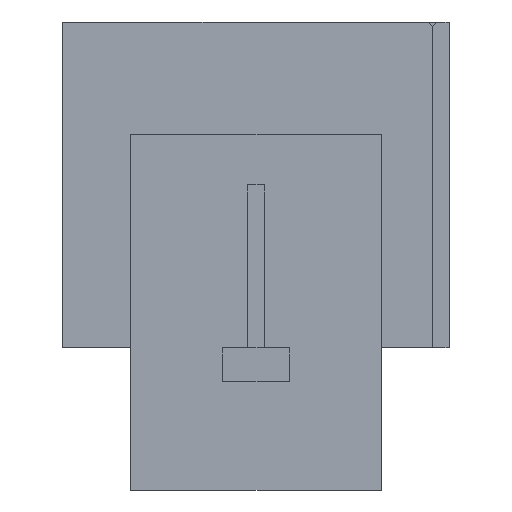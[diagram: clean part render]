
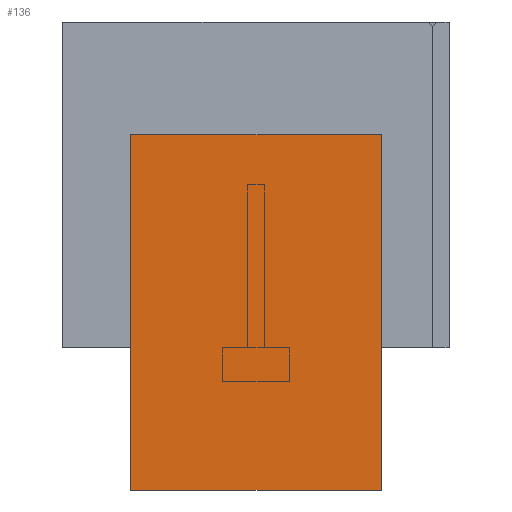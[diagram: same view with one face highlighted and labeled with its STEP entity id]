
A CAD part, left-side view. The second image highlights one B-rep face of the part: STEP entity #136.
In plain terms, the highlighted planar face has unit normal (-1, 0, 0).
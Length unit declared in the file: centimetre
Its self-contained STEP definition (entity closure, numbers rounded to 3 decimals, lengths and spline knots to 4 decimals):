
#136=ADVANCED_FACE('',(#218),#1224,.T.);
#218=FACE_OUTER_BOUND('',#300,.T.);
#300=EDGE_LOOP('',(#417,#418,#419,#420));
#417=ORIENTED_EDGE('',*,*,#754,.T.);
#418=ORIENTED_EDGE('',*,*,#747,.F.);
#419=ORIENTED_EDGE('',*,*,#756,.F.);
#420=ORIENTED_EDGE('',*,*,#750,.T.);
#747=EDGE_CURVE('',#1103,#1104,#927,.T.);
#750=EDGE_CURVE('',#1107,#1105,#930,.T.);
#754=EDGE_CURVE('',#1105,#1104,#934,.T.);
#756=EDGE_CURVE('',#1107,#1103,#936,.T.);
#927=B_SPLINE_CURVE_WITH_KNOTS('',1,(#1541,#1542),.UNSPECIFIED.,.F.,.F.,
(2,2),(-42.5,0.),.UNSPECIFIED.);
#930=B_SPLINE_CURVE_WITH_KNOTS('',1,(#1547,#1548),.UNSPECIFIED.,.F.,.F.,
(2,2),(-42.5,0.),.UNSPECIFIED.);
#934=B_SPLINE_CURVE_WITH_KNOTS('',1,(#1555,#1556),.UNSPECIFIED.,.F.,.F.,
(2,2),(-30.,0.),.UNSPECIFIED.);
#936=B_SPLINE_CURVE_WITH_KNOTS('',1,(#1559,#1560),.UNSPECIFIED.,.F.,.F.,
(2,2),(-30.,0.),.UNSPECIFIED.);
#1103=VERTEX_POINT('',#1531);
#1104=VERTEX_POINT('',#1532);
#1105=VERTEX_POINT('',#1533);
#1107=VERTEX_POINT('',#1535);
#1224=PLANE('',#1326);
#1326=AXIS2_PLACEMENT_3D('',#1528,#1411,$);
#1411=DIRECTION('',(-1.,0.,0.));
#1528=CARTESIAN_POINT('',(103.817,173.9657,-12.3516));
#1531=CARTESIAN_POINT('',(103.817,140.9645,34.3996));
#1532=CARTESIAN_POINT('',(103.817,140.9645,-8.1004));
#1533=CARTESIAN_POINT('',(103.817,170.9645,-8.1004));
#1535=CARTESIAN_POINT('',(103.817,170.9645,34.3996));
#1541=CARTESIAN_POINT('',(103.817,140.9645,34.3996));
#1542=CARTESIAN_POINT('',(103.817,140.9645,-8.1004));
#1547=CARTESIAN_POINT('',(103.817,170.9645,34.3996));
#1548=CARTESIAN_POINT('',(103.817,170.9645,-8.1004));
#1555=CARTESIAN_POINT('',(103.817,170.9645,-8.1004));
#1556=CARTESIAN_POINT('',(103.817,140.9645,-8.1004));
#1559=CARTESIAN_POINT('',(103.817,170.9645,34.3996));
#1560=CARTESIAN_POINT('',(103.817,140.9645,34.3996));
